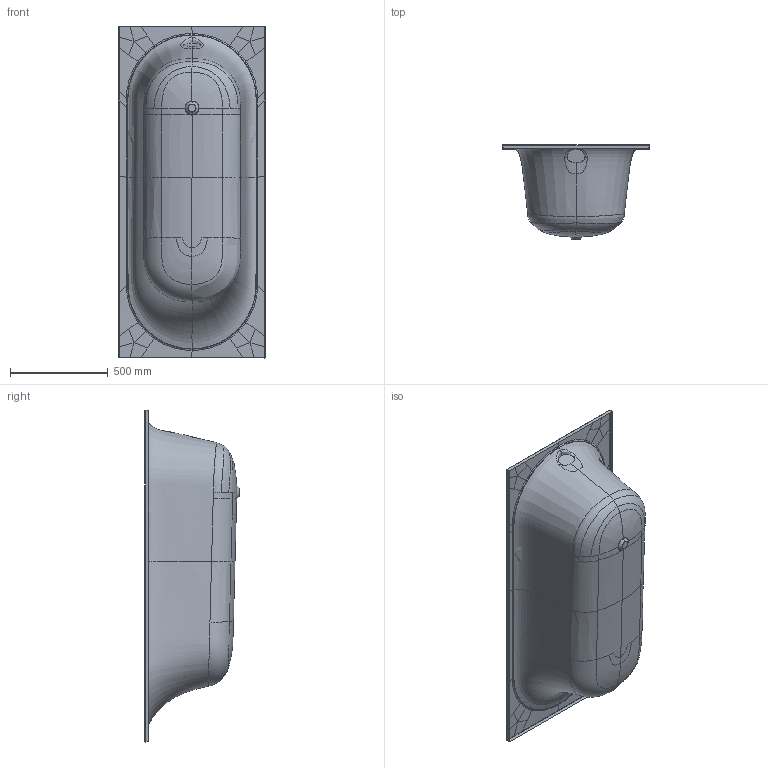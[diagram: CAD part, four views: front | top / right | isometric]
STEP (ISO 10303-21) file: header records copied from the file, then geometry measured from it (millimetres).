
FILE_DESCRIPTION((''),'2;1');
FILE_NAME('UBQ170CEU2V_CETUS','2022-06-29T16:54:36',('hegemanc'),('Villeroy & Boch Wellness bv'),'CREO PARAMETRIC BY PTC INC, 2020454','CREO PARAMETRIC BY PTC INC, 2020454','');
FILE_SCHEMA(('CONFIG_CONTROL_DESIGN'));
Products named in the file (1): UBQ170CEU2V_CETUS
Bounding box: 750 x 483 x 1700 mm (x, y, z)
Surface area: 2387424.4 mm2 (no closed solid volume)
Topology: 0 solids, 1 shells, 166 faces, 402 edges, 233 vertices
Faces by surface type: bspline 116, cylinder 22, plane 12, torus 10, sphere 4, cone 2
Entity records: 61589 total; most frequent: CARTESIAN_POINT 58640, ORIENTED_EDGE 764, EDGE_CURVE 402, DIRECTION 284, B_SPLINE_CURVE_WITH_KNOTS 268, VERTEX_POINT 233, EDGE_LOOP 166, FACE_OUTER_BOUND 166
